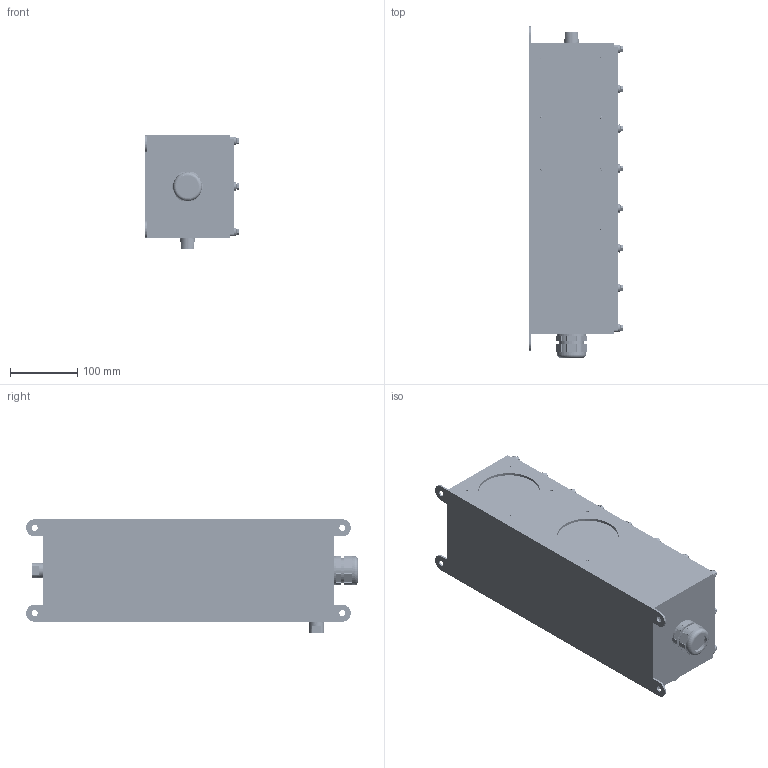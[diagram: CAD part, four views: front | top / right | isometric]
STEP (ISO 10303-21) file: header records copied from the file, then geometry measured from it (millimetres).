
FILE_DESCRIPTION (( 'STEP AP203' ), '1' );
FILE_NAME ('LL-FO.STEP', '2023-03-07T18:36:23', ( '' ), ( '' ), 'SwSTEP 2.0', 'SolidWorks 2021', '' );
FILE_SCHEMA (( 'CONFIG_CONTROL_DESIGN' ));
Length unit declared in the file: inch
Products named in the file (29): PG11-N03; CLSS-M5-1; PG29-01-01-01-01_.060 GAP; 4452K542_4452K542; TJS050023X; 91292A811_91292A811; 400653; 201758; 201751; 25059.01.02_CAD_Gocator-2690_312690A-X-R-01-S_Body; 98863A536_98863A536; LL-FO; PG11-S01; PG29-B01; 201756; 201759; 93635A162_93635A162; 201750; 500108; 800001; 400654; 93625A200; PG29-S01; PG29-N01; 201757; PG29-I01; SP-M5-2; 94639A455_94639A455; 800009
Assembly tree (111 placements, depth 3):
  LL-FO
    201756
      201757
      SP-M5-2  x18
      800001  x8
      98863A536_98863A536  x3
    201750
      201751
      CLSS-M5-1  x3
    201758
    400654
    PG29-01-01-01-01_.060 GAP
      PG29-B01
      PG29-I01
      PG29-S01
      PG29-N01
    201759  x2
    400653  x2
    500108  x2
    93625A200  x11
    94639A455_94639A455  x3
    TJS050023X  x18
    93635A162_93635A162  x18
    800009  x2
    4452K542_4452K542  x2
    PG11-S01  x2
    PG11-N03  x2
    91292A811_91292A811  x3
    25059.01.02_CAD_Gocator-2690_312690A-X-R-01-S_Body
Bounding box: 139.64 x 493.2 x 168.73 mm (x, y, z)
Volume: 2456128.6 mm3; surface area: 960672.9 mm2
Topology: 120 solids, 160 shells, 4985 faces, 12465 edges, 8153 vertices
Faces by surface type: plane 2223, cylinder 1596, cone 830, bspline 310, torus 26
Full cylindrical faces by diameter (mm): 4 x11, 4.2 x11, 4.572 x18, 4.928 x3, 5 x136, 5.5 x3, 5.842 x18, 6.35 x73, 8.5 x3, 9 x4, 9.525 x3, 10.516 x2, 10.518 x2, 11.883 x2, 12.192 x18, 12.7 x18, 17.272 x2, 18.796 x4, 19.05 x2, 21.844 x2, 22.86 x2, 28 x1, 31 x1, 31.5 x1, 32.5 x1, 35 x1, 37 x2, 38 x1, 43.5 x1, 92.075 x6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
Entity records: 102093 total; most frequent: CARTESIAN_POINT 48270, ORIENTED_EDGE 9872, DIRECTION 9809, EDGE_CURVE 4936, AXIS2_PLACEMENT_3D 3709, VERTEX_POINT 3419, EDGE_LOOP 2621, LINE 2391
